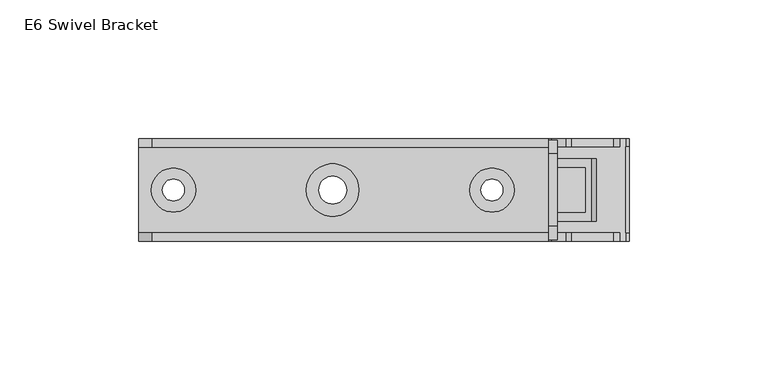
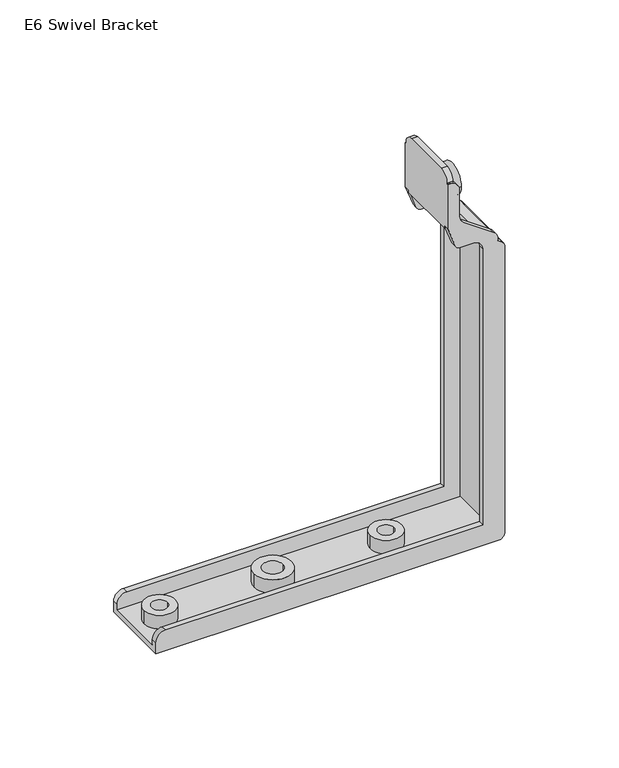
"""IFC4 building model written with IfcOpenShell, lengths in millimetres: proxy geometry, d&b E-Series E6 Swivel Bracket : E6 Swivel Bracket."""

from ifc_helpers import new_model, si_unit, point, frame, frame_2d, origin, origin_2d, place, context, project, spatial, polyline, circle_curve, trimmed, segment, composite_curve, outline, extrude, source, transform, mapped, element, save
from ifc_brep_helpers import plane_surface, cylinder_surface, revolved_surface, advanced_brep


def e6_swivel_bracket_389a8270(model_context):
    return source(origin(), model_context, "Body", "SolidModel", [
        advanced_brep(
        [(81.0, 18.0, 11.5825757), (81.0, 18.0, 12.5), (81.0, 13.0, 17.5), (81.0, -13.0, 17.5), (81.0, -18.0, 12.5), (81.0, -18.0, 11.5825757), (81.0, -15.5, 11.5825757), (81.0, -15.5, -11.2329029), (81.0, 15.5, -11.2329029), (81.0, 15.5, 11.5825757), (78.0, -18.0, 12.5), (78.0, -13.0, 17.5), (78.0, 13.0, 17.5), (78.0, 18.0, 12.5), (78.0, 18.0, 12.0), (78.0, 18.5, 12.0), (78.0, 18.5, -11.5897638), (78.0, 15.5, -11.5897638), (78.0, 15.5, -12.794604), (78.0, -15.5, -12.794604), (78.0, -15.5, -11.5897638), (78.0, -18.5, -11.5897638), (78.0, -18.5, 12.0), (78.0, -18.0, 12.0), (79.0, 18.0, 12.0), (79.0, -18.0, 12.0), (78.5885107, 15.5, -13.2066836), (78.5885107, -15.5, -13.2066836), (103.5749026, 15.5, -188.0), (103.5749026, -15.5, -188.0), (103.5749026, -18.5, -188.0), (-70.0, -18.5, -188.0), (-70.0, 18.5, -188.0), (103.5749026, 18.5, -188.0), (-61.4155031, 0.0, -188.0), (-53.4660711, 0.0, -188.0), (61.4155031, 0.0, -188.0), (53.4660711, 0.0, -188.0), (-5.0, 0.0, -188.0), (5.0, 0.0, -188.0), (107.0, 15.5, -31.1095724), (107.0, -15.5, -31.1095724), (107.0, -18.5, -31.1095724), (107.0, -18.5, -184.5749026), (107.0, -15.5, -184.5749026), (107.0, 15.5, -184.5749026), (107.0, 18.5, -184.5749026), (107.0, 18.5, -31.1095724), (105.6309729, 15.5, -28.4796957), (105.6309729, -15.5, -28.4796957), (105.6309729, 18.5, -28.4796957), (103.5, 18.5, -26.9875725), (103.5, 15.5, -26.9875725), (103.5, -15.5, -26.9875725), (103.5, -18.5, -26.9875725), (105.6309729, -18.5, -28.4796957), (95.1387965, 11.25, -21.1329948), (95.1387965, -11.25, -21.1329948), (81.2132118, -11.25, -11.3821954), (81.2132118, 11.25, -11.3821954), (104.0, -15.5, -185.0), (104.0, 15.5, -185.0), (-70.0, 15.5, -185.0), (-70.0, -15.5, -185.0), (-61.4155031, 0.0, -185.0), (-53.4660711, 0.0, -185.0), (61.4155031, 0.0, -185.0), (53.4660711, 0.0, -185.0), (-5.0, 0.0, -185.0), (5.0, 0.0, -185.0), (104.0, -15.5, -31.0), (104.0, 15.5, -31.0), (93.4180672, -11.25, -23.5904509), (93.4180672, 11.25, -23.5904509), (79.4924825, 11.25, -13.8396515), (79.4924825, -11.25, -13.8396515), (81.8573688, 15.5, -22.1877975), (84.1924983, 15.5, -23.8228727), (91.0, 15.5, -23.8228727), (96.0, 15.5, -28.8228727), (96.0, 15.5, -177.0), (-65.0, 15.5, -177.0), (-70.0, 15.5, -182.0), (103.5, 15.5, -25.928084), (101.3678822, 15.5, -21.8323237), (86.1321178, 15.5, -11.1641267), (84.0, 15.5, -7.0683665), (84.0, 15.5, 7.0), (84.0, 18.5, 7.0), (84.0, 18.5, -7.0683665), (86.1321178, 18.5, -11.1641267), (101.3678822, 18.5, -21.8323237), (103.5, 18.5, -25.928084), (-70.0, 18.5, -182.0), (-65.0, 18.5, -177.0), (96.0, 18.5, -177.0), (96.0, 18.5, -28.8228727), (91.0, 18.5, -23.8228727), (84.1924983, 18.5, -23.8228727), (81.8573688, 18.5, -22.1877975), (79.0, 18.5, 12.0), (84.0, -15.5, 7.0), (84.0, -15.5, -7.0683665), (86.1321178, -15.5, -11.1641267), (101.3678822, -15.5, -21.8323237), (103.5, -15.5, -25.928084), (-70.0, -15.5, -182.0), (-65.0, -15.5, -177.0), (96.0, -15.5, -177.0), (96.0, -15.5, -28.8228727), (91.0, -15.5, -23.8228727), (84.1924983, -15.5, -23.8228727), (81.8573688, -15.5, -22.1877975), (84.0, -18.5, 7.0), (79.0, -18.5, 12.0), (81.8573688, -18.5, -22.1877975), (84.1924983, -18.5, -23.8228727), (91.0, -18.5, -23.8228727), (96.0, -18.5, -28.8228727), (96.0, -18.5, -177.0), (-65.0, -18.5, -177.0), (-70.0, -18.5, -182.0), (103.5, -18.5, -25.928084), (101.3678822, -18.5, -21.8323237), (86.1321178, -18.5, -11.1641267), (84.0, -18.5, -7.0683665)],
        [
            (0, 1),
            (1, 2, circle_curve(frame((81.0, 13.0, 12.5), z_axis=(1.0, 0.0, 0.0), x_axis=(0.0, 0.0, -1.0)), 5.0)),
            (2, 3),
            (3, 4, circle_curve(frame((81.0, -13.0, 12.5), z_axis=(1.0, 0.0, 0.0), x_axis=(0.0, 0.0, -1.0)), 5.0)),
            (4, 5),
            (5, 6),
            (6, 7),
            (7, 8),
            (8, 9),
            (9, 0),
            (10, 11, circle_curve(frame((78.0, -13.0, 12.5), z_axis=(-1.0, 0.0, 0.0), x_axis=(0.0, 0.0, -1.0)), 5.0)),
            (11, 12),
            (12, 13, circle_curve(frame((78.0, 13.0, 12.5), z_axis=(-1.0, 0.0, 0.0), x_axis=(0.0, 0.0, -1.0)), 5.0)),
            (13, 14),
            (14, 15),
            (15, 16),
            (16, 17),
            (17, 18),
            (18, 19),
            (19, 20),
            (20, 21),
            (21, 22),
            (22, 23),
            (23, 10),
            (0, 24, circle_curve(frame((79.0, 18.0, 7.0), z_axis=(0.0, -1.0, 0.0), x_axis=(1.0, 0.0, 0.0)), 5.0)),
            (24, 14),
            (13, 1),
            (2, 12),
            (11, 3),
            (10, 4),
            (23, 25),
            (25, 5, circle_curve(frame((79.0, -18.0, 7.0), z_axis=(0.0, 1.0, 0.0), x_axis=(1.0, 0.0, 0.0)), 5.0)),
            (26, 18),
            (17, 26),
            (19, 27),
            (27, 20),
            (28, 29),
            (29, 30),
            (30, 31),
            (31, 32),
            (32, 33),
            (33, 28),
            (34, 35, circle_curve(frame((-57.4407871, 0.0, -188.0), z_axis=(0.0, 0.0, 1.0), x_axis=(1.0, 0.0, 0.0)), 3.974716)),
            (35, 34, circle_curve(frame((-57.4407871, 0.0, -188.0), z_axis=(0.0, 0.0, 1.0), x_axis=(1.0, 0.0, 0.0)), 3.974716)),
            (36, 37, circle_curve(frame((57.4407871, 0.0, -188.0), z_axis=(0.0, 0.0, 1.0), x_axis=(-1.0, 0.0, 0.0)), 3.974716)),
            (37, 36, circle_curve(frame((57.4407871, 0.0, -188.0), z_axis=(0.0, 0.0, 1.0), x_axis=(-1.0, 0.0, 0.0)), 3.974716)),
            (38, 39, circle_curve(frame((0.0, 0.0, -188.0), z_axis=(0.0, 0.0, 1.0), x_axis=(1.0, 0.0, 0.0)), 5.0)),
            (39, 38, circle_curve(frame((0.0, 0.0, -188.0), z_axis=(0.0, 0.0, 1.0), x_axis=(1.0, 0.0, 0.0)), 5.0)),
            (40, 41),
            (41, 42),
            (42, 43),
            (43, 44),
            (44, 45),
            (45, 46),
            (46, 47),
            (47, 40),
            (40, 48, circle_curve(frame((103.7895134, 15.5, -31.1095724), z_axis=(0.0, -1.0, 0.0), x_axis=(1.0, 0.0, 0.0)), 3.2104866)),
            (48, 49),
            (49, 41, circle_curve(frame((103.7895134, -15.5, -31.1095724), z_axis=(0.0, 1.0, 0.0), x_axis=(1.0, 0.0, 0.0)), 3.2104866)),
            (48, 50),
            (50, 51),
            (51, 52),
            (52, 8),
            (7, 53),
            (53, 54),
            (54, 55),
            (55, 49),
            (56, 57),
            (57, 58),
            (58, 59),
            (59, 56),
            (28, 45, circle_curve(frame((103.5749026, 15.5, -184.5749026), z_axis=(0.0, -1.0, 0.0), x_axis=(1.0, 0.0, 0.0)), 3.4250974)),
            (44, 29, circle_curve(frame((103.5749026, -15.5, -184.5749026), z_axis=(0.0, 1.0, 0.0), x_axis=(1.0, 0.0, 0.0)), 3.4250974)),
            (60, 61),
            (61, 62),
            (62, 63),
            (63, 60),
            (64, 65, circle_curve(frame((-57.4407871, 0.0, -185.0), z_axis=(0.0, 0.0, -1.0), x_axis=(1.0, 0.0, 0.0)), 3.974716)),
            (65, 64, circle_curve(frame((-57.4407871, 0.0, -185.0), z_axis=(0.0, 0.0, -1.0), x_axis=(1.0, 0.0, 0.0)), 3.974716)),
            (66, 67, circle_curve(frame((57.4407871, 0.0, -185.0), z_axis=(0.0, 0.0, -1.0), x_axis=(-1.0, 0.0, 0.0)), 3.974716)),
            (67, 66, circle_curve(frame((57.4407871, 0.0, -185.0), z_axis=(0.0, 0.0, -1.0), x_axis=(-1.0, 0.0, 0.0)), 3.974716)),
            (68, 69, circle_curve(frame((0.0, 0.0, -185.0), z_axis=(0.0, 0.0, -1.0), x_axis=(1.0, 0.0, 0.0)), 5.0)),
            (69, 68, circle_curve(frame((0.0, 0.0, -185.0), z_axis=(0.0, 0.0, -1.0), x_axis=(1.0, 0.0, 0.0)), 5.0)),
            (60, 70),
            (70, 71),
            (71, 61),
            (70, 27),
            (26, 71),
            (72, 73),
            (73, 74),
            (74, 75),
            (75, 72),
            (76, 77, circle_curve(frame((84.1924983, 15.5, -21.3378799), z_axis=(0.0, -1.0, 0.0), x_axis=(1.0, 0.0, 0.0)), 2.4849928)),
            (77, 78),
            (78, 79, circle_curve(frame((91.0, 15.5, -28.8228727), z_axis=(0.0, 1.0, 0.0), x_axis=(1.0, 0.0, 0.0)), 5.0)),
            (79, 80),
            (80, 81),
            (81, 82, circle_curve(frame((-65.0, 15.5, -182.0), z_axis=(0.0, -1.0, 0.0), x_axis=(1.0, 0.0, 0.0)), 5.0)),
            (82, 62),
            (26, 76),
            (52, 83),
            (83, 84, circle_curve(frame((98.5, 15.5, -25.928084), z_axis=(0.0, -1.0, 0.0), x_axis=(1.0, 0.0, 0.0)), 5.0)),
            (84, 85),
            (85, 86, circle_curve(frame((89.0, 15.5, -7.0683665), z_axis=(0.0, 1.0, 0.0), x_axis=(1.0, 0.0, 0.0)), 5.0)),
            (86, 87),
            (87, 9, circle_curve(frame((79.0, 15.5, 7.0), z_axis=(0.0, -1.0, 0.0), x_axis=(1.0, 0.0, 0.0)), 5.0)),
            (88, 89),
            (89, 90, circle_curve(frame((89.0, 18.5, -7.0683665), z_axis=(0.0, -1.0, 0.0), x_axis=(1.0, 0.0, 0.0)), 5.0)),
            (90, 91),
            (91, 92, circle_curve(frame((98.5, 18.5, -25.928084), z_axis=(0.0, 1.0, 0.0), x_axis=(1.0, 0.0, 0.0)), 5.0)),
            (92, 51),
            (50, 47, circle_curve(frame((103.7895134, 18.5, -31.1095724), z_axis=(0.0, 1.0, 0.0), x_axis=(1.0, 0.0, 0.0)), 3.2104866)),
            (46, 33, circle_curve(frame((103.5749026, 18.5, -184.5749026), z_axis=(0.0, 1.0, 0.0), x_axis=(1.0, 0.0, 0.0)), 3.4250974)),
            (32, 93),
            (93, 94, circle_curve(frame((-65.0, 18.5, -182.0), z_axis=(0.0, 1.0, 0.0), x_axis=(1.0, 0.0, 0.0)), 5.0)),
            (94, 95),
            (95, 96),
            (96, 97, circle_curve(frame((91.0, 18.5, -28.8228727), z_axis=(0.0, -1.0, 0.0), x_axis=(1.0, 0.0, 0.0)), 5.0)),
            (97, 98),
            (98, 99, circle_curve(frame((84.1924983, 18.5, -21.3378799), z_axis=(0.0, 1.0, 0.0), x_axis=(1.0, 0.0, 0.0)), 2.4849928)),
            (99, 16),
            (15, 100),
            (100, 88, circle_curve(frame((79.0, 18.5, 7.0), z_axis=(0.0, 1.0, 0.0), x_axis=(1.0, 0.0, 0.0)), 5.0)),
            (100, 24),
            (87, 88),
            (99, 76),
            (98, 77),
            (97, 78),
            (96, 79),
            (95, 80),
            (94, 81),
            (93, 82),
            (92, 83),
            (91, 84),
            (90, 85),
            (89, 86),
            (101, 102),
            (102, 103, circle_curve(frame((89.0, -15.5, -7.0683665), z_axis=(0.0, -1.0, 0.0), x_axis=(1.0, 0.0, 0.0)), 5.0)),
            (103, 104),
            (104, 105, circle_curve(frame((98.5, -15.5, -25.928084), z_axis=(0.0, 1.0, 0.0), x_axis=(1.0, 0.0, 0.0)), 5.0)),
            (105, 53),
            (6, 101, circle_curve(frame((79.0, -15.5, 7.0), z_axis=(0.0, 1.0, 0.0), x_axis=(1.0, 0.0, 0.0)), 5.0)),
            (106, 107, circle_curve(frame((-65.0, -15.5, -182.0), z_axis=(0.0, 1.0, 0.0), x_axis=(1.0, 0.0, 0.0)), 5.0)),
            (107, 108),
            (108, 109),
            (109, 110, circle_curve(frame((91.0, -15.5, -28.8228727), z_axis=(0.0, -1.0, 0.0), x_axis=(1.0, 0.0, 0.0)), 5.0)),
            (110, 111),
            (111, 112, circle_curve(frame((84.1924983, -15.5, -21.3378799), z_axis=(0.0, 1.0, 0.0), x_axis=(1.0, 0.0, 0.0)), 2.4849928)),
            (112, 27),
            (63, 106),
            (113, 114, circle_curve(frame((79.0, -18.5, 7.0), z_axis=(0.0, -1.0, 0.0), x_axis=(1.0, 0.0, 0.0)), 5.0)),
            (114, 22),
            (21, 115),
            (115, 116, circle_curve(frame((84.1924983, -18.5, -21.3378799), z_axis=(0.0, -1.0, 0.0), x_axis=(1.0, 0.0, 0.0)), 2.4849928)),
            (116, 117),
            (117, 118, circle_curve(frame((91.0, -18.5, -28.8228727), z_axis=(0.0, 1.0, 0.0), x_axis=(1.0, 0.0, 0.0)), 5.0)),
            (118, 119),
            (119, 120),
            (120, 121, circle_curve(frame((-65.0, -18.5, -182.0), z_axis=(0.0, -1.0, 0.0), x_axis=(1.0, 0.0, 0.0)), 5.0)),
            (121, 31),
            (30, 43, circle_curve(frame((103.5749026, -18.5, -184.5749026), z_axis=(0.0, -1.0, 0.0), x_axis=(1.0, 0.0, 0.0)), 3.4250974)),
            (42, 55, circle_curve(frame((103.7895134, -18.5, -31.1095724), z_axis=(0.0, -1.0, 0.0), x_axis=(1.0, 0.0, 0.0)), 3.2104866)),
            (54, 122),
            (122, 123, circle_curve(frame((98.5, -18.5, -25.928084), z_axis=(0.0, -1.0, 0.0), x_axis=(1.0, 0.0, 0.0)), 5.0)),
            (123, 124),
            (124, 125, circle_curve(frame((89.0, -18.5, -7.0683665), z_axis=(0.0, 1.0, 0.0), x_axis=(1.0, 0.0, 0.0)), 5.0)),
            (125, 113),
            (113, 101),
            (25, 114),
            (112, 115),
            (111, 116),
            (110, 117),
            (109, 118),
            (108, 119),
            (107, 120),
            (106, 121),
            (105, 122),
            (104, 123),
            (103, 124),
            (102, 125),
            (56, 73),
            (72, 57),
            (75, 58),
            (74, 59),
            (64, 34),
            (35, 65),
            (66, 36),
            (37, 67),
            (68, 38),
            (39, 69),
        ],
        [
            plane_surface(frame((81.0, 15.5, 12.4997013), z_axis=(1.0, 0.0, 0.0), x_axis=(0.0, 1.0, 0.0))),
            plane_surface(frame((78.0, 15.5, 12.4997013), z_axis=(-1.0, 0.0, 0.0), x_axis=(0.0, -1.0, 0.0))),
            plane_surface(frame((81.0, 18.0, 11.5825757), z_axis=(0.0, 1.0, 0.0), x_axis=(-1.0, 0.0, 0.0))),
            plane_surface(frame((81.0, 13.0, 17.5), z_axis=(0.0, 0.0, 1.0), x_axis=(-1.0, 0.0, 0.0))),
            cylinder_surface(frame((78.0, -13.0, 12.5), z_axis=(1.0, 0.0, 0.0), x_axis=(0.0, 0.0, -1.0)), 5.0),
            plane_surface(frame((81.0, -18.0, 12.5), z_axis=(0.0, -1.0, 0.0), x_axis=(-1.0, 0.0, 0.0))),
            cylinder_surface(frame((78.0, 13.0, 12.5), z_axis=(1.0, 0.0, 0.0), x_axis=(0.0, 0.0, -1.0)), 5.0),
            plane_surface(frame((107.0, 15.5, -184.5749026), z_axis=(0.0, 1.0, 0.0), x_axis=(0.0, 0.0, -1.0))),
            plane_surface(frame((107.0, -15.5, -184.5749026), z_axis=(0.0, -1.0, 0.0), x_axis=(0.0, 0.0, 1.0))),
            plane_surface(frame((103.5749026, 15.5, -188.0), z_axis=(0.0, 0.0, -1.0), x_axis=(0.0, -1.0, 0.0))),
            plane_surface(frame((107.0, 15.5, -31.1095724), z_axis=(1.0, 0.0, 0.0), x_axis=(0.0, -1.0, 0.0))),
            cylinder_surface(frame((103.7895134, -15.5, -31.1095724), z_axis=(0.0, 1.0, 0.0), x_axis=(1.0, 0.0, 0.0)), 3.2104866),
            plane_surface(frame((81.0, 15.5, -11.2329029), z_axis=(0.5735764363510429, 0.0, 0.819152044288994), x_axis=(0.0, -1.0, 0.0))),
            cylinder_surface(frame((103.5749026, -15.5, -184.5749026), z_axis=(0.0, 1.0, 0.0), x_axis=(1.0, 0.0, 0.0)), 3.4250974),
            plane_surface(frame((99.0, 15.5, -185.0), z_axis=(0.0, 0.0, 1.0), x_axis=(0.0, -1.0, 0.0))),
            plane_surface(frame((104.0, 15.5, -185.0), z_axis=(-1.0, 0.0, 0.0), x_axis=(0.0, -1.0, 0.0))),
            plane_surface(frame((104.0, 15.5, -31.0), z_axis=(-0.5735764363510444, 0.0, -0.8191520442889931), x_axis=(0.0, -1.0, 0.0))),
            plane_surface(frame((84.0, 15.5, 7.0), z_axis=(0.0, -1.0, 0.0), x_axis=(0.0, 0.0, 1.0))),
            plane_surface(frame((84.0, 18.5, 7.0), z_axis=(0.0, 1.0, 0.0), x_axis=(0.0, 0.0, -1.0))),
            cylinder_surface(frame((79.0, 18.5, 7.0), z_axis=(0.0, -1.0, 0.0), x_axis=(1.0, 0.0, 0.0)), 5.0),
            plane_surface(frame((79.0, 15.5, 12.0), z_axis=(0.0, 0.0, 1.0), x_axis=(0.0, 1.0, 0.0))),
            plane_surface(frame((78.0, 15.5, -11.5897638), z_axis=(-0.9396926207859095, 0.0, -0.34202014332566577), x_axis=(0.0, 1.0, 0.0))),
            cylinder_surface(frame((84.1924983, 18.5, -21.3378799), z_axis=(0.0, -1.0, 0.0), x_axis=(1.0, 0.0, 0.0)), 2.4849928),
            plane_surface(frame((84.1924983, 15.5, -23.8228727), z_axis=(0.0, 0.0, -1.0), x_axis=(0.0, 1.0, 0.0))),
            revolved_surface(polyline([(96.0, 18.5, -28.8228727), (96.0, 15.5, -28.8228727)]), (91.0, 18.5, -28.8228727), (0.0, 1.0, 0.0)),
            plane_surface(frame((96.0, 15.5, -28.8228727), z_axis=(-1.0, 0.0, 0.0), x_axis=(0.0, 1.0, 0.0))),
            plane_surface(frame((96.0, 15.5, -177.0), z_axis=(0.0, 0.0, 1.0), x_axis=(0.0, 1.0, 0.0))),
            cylinder_surface(frame((-65.0, 18.5, -182.0), z_axis=(0.0, -1.0, 0.0), x_axis=(1.0, 0.0, 0.0)), 5.0),
            cylinder_surface(frame((103.7895134, 18.5, -31.1095724), z_axis=(0.0, -1.0, 0.0), x_axis=(1.0, 0.0, 0.0)), 3.2104866),
            plane_surface(frame((103.5, 15.5, -26.9875725), z_axis=(1.0, 0.0, 0.0), x_axis=(0.0, 1.0, 0.0))),
            cylinder_surface(frame((98.5, 18.5, -25.928084), z_axis=(0.0, -1.0, 0.0), x_axis=(1.0, 0.0, 0.0)), 5.0),
            plane_surface(frame((101.3678822, 15.5, -21.8323237), z_axis=(0.5735764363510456, 0.0, 0.8191520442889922), x_axis=(0.0, 1.0, 0.0))),
            revolved_surface(polyline([(94.0, 18.5, -7.0683665), (94.0, 15.5, -7.0683665)]), (89.0, 18.5, -7.0683665), (0.0, 1.0, 0.0)),
            plane_surface(frame((84.0, 15.5, -7.0683665), z_axis=(1.0, 0.0, 0.0), x_axis=(0.0, 1.0, 0.0))),
            plane_surface(frame((84.0, -15.5, -7.0683665), z_axis=(0.0, 1.0, 0.0), x_axis=(0.0, 0.0, -1.0))),
            plane_surface(frame((84.0, -18.5, -7.0683665), z_axis=(0.0, -1.0, 0.0), x_axis=(0.0, 0.0, 1.0))),
            cylinder_surface(frame((79.0, -18.5, 7.0), z_axis=(0.0, 1.0, 0.0), x_axis=(1.0, 0.0, 0.0)), 5.0),
            plane_surface(frame((78.0, -15.5, 12.0), z_axis=(0.0, 0.0, 1.0), x_axis=(0.0, -1.0, 0.0))),
            plane_surface(frame((81.8573688, -15.5, -22.1877975), z_axis=(-0.9396926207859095, 0.0, -0.34202014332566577), x_axis=(0.0, -1.0, 0.0))),
            cylinder_surface(frame((84.1924983, -18.5, -21.3378799), z_axis=(0.0, 1.0, 0.0), x_axis=(1.0, 0.0, 0.0)), 2.4849928),
            plane_surface(frame((91.0, -15.5, -23.8228727), z_axis=(0.0, 0.0, -1.0), x_axis=(0.0, -1.0, 0.0))),
            revolved_surface(polyline([(96.0, -18.5, -28.8228727), (96.0, -15.5, -28.8228727)]), (91.0, -18.5, -28.8228727), (0.0, -1.0, 0.0)),
            plane_surface(frame((96.0, -15.5, -177.0), z_axis=(-1.0, 0.0, 0.0), x_axis=(0.0, -1.0, 0.0))),
            plane_surface(frame((-65.0, -15.5, -177.0), z_axis=(0.0, 0.0, 1.0), x_axis=(0.0, -1.0, 0.0))),
            cylinder_surface(frame((-65.0, -18.5, -182.0), z_axis=(0.0, 1.0, 0.0), x_axis=(1.0, 0.0, 0.0)), 5.0),
            cylinder_surface(frame((103.7895134, -18.5, -31.1095724), z_axis=(0.0, 1.0, 0.0), x_axis=(1.0, 0.0, 0.0)), 3.2104866),
            plane_surface(frame((103.5, -15.5, -25.928084), z_axis=(1.0, 0.0, 0.0), x_axis=(0.0, -1.0, 0.0))),
            cylinder_surface(frame((98.5, -18.5, -25.928084), z_axis=(0.0, 1.0, 0.0), x_axis=(1.0, 0.0, 0.0)), 5.0),
            plane_surface(frame((86.1321178, -15.5, -11.1641267), z_axis=(0.5735764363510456, 0.0, 0.8191520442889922), x_axis=(0.0, -1.0, 0.0))),
            revolved_surface(polyline([(94.0, -18.5, -7.0683665), (94.0, -15.5, -7.0683665)]), (89.0, -18.5, -7.0683665), (0.0, -1.0, 0.0)),
            plane_surface(frame((84.0, -15.5, 7.0), z_axis=(1.0, 0.0, 0.0), x_axis=(0.0, -1.0, 0.0))),
            cylinder_surface(frame((103.5749026, 18.5, -184.5749026), z_axis=(0.0, -1.0, 0.0), x_axis=(1.0, 0.0, 0.0)), 3.4250974),
            cylinder_surface(frame((103.5749026, -18.5, -184.5749026), z_axis=(0.0, 1.0, 0.0), x_axis=(1.0, 0.0, 0.0)), 3.4250974),
            plane_surface(frame((-70.0, 15.5, -182.0), z_axis=(-1.0, 0.0, 0.0), x_axis=(0.0, 1.0, 0.0))),
            plane_surface(frame((91.4532615, 11.25, -26.3964843), z_axis=(-0.819152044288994, 0.0, 0.573576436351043), x_axis=(0.573576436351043, 0.0, 0.819152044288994))),
            plane_surface(frame((91.4532615, -11.25, -26.3964843), z_axis=(0.0, 1.0, 0.0), x_axis=(0.573576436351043, 0.0, 0.819152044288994))),
            plane_surface(frame((77.5276767, -11.25, -16.6456849), z_axis=(0.8191520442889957, 0.0, -0.5735764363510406), x_axis=(0.5735764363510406, 0.0, 0.8191520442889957))),
            plane_surface(frame((77.5276767, 11.25, -16.6456849), z_axis=(0.0, -1.0, 0.0), x_axis=(0.573576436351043, 0.0, 0.819152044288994))),
            revolved_surface(polyline([(-53.4660711, 0.0, -185.0), (-53.4660711, 0.0, -188.0)]), (-57.4407871, 0.0, -188.0), (0.0, 0.0, 1.0)),
            revolved_surface(polyline([(53.4660711, 0.0, -185.0), (53.4660711, 0.0, -188.0)]), (57.4407871, 0.0, -188.0), (0.0, 0.0, 1.0)),
            revolved_surface(polyline([(5.0, 0.0, -185.0), (5.0, 0.0, -188.0)]), (0.0, 0.0, -188.0), (0.0, 0.0, 1.0)),
        ],
        [
            (0, [[1, 2, 3, 4, 5, 6, 7, 8, 9, 10]]),
            (1, [[11, 12, 13, 14, 15, 16, 17, 18, 19, 20, 21, 22, 23, 24]]),
            (2, [[-1, 25, 26, -14, 27]]),
            (3, [[-3, 28, -12, 29]]),
            (4, [[-4, -29, -11, 30]]),
            (5, [[-5, -30, -24, 31, 32]]),
            (6, [[-2, -27, -13, -28]]),
            (7, [[33, -18, 34]]),
            (8, [[-20, 35, 36]]),
            (9, [[37, 38, 39, 40, 41, 42], [43, 44], [45, 46], [47, 48]]),
            (10, [[49, 50, 51, 52, 53, 54, 55, 56]]),
            (11, [[-49, 57, 58, 59]]),
            (12, [[-58, 60, 61, 62, 63, -8, 64, 65, 66, 67], [68, 69, 70, 71]]),
            (13, [[-37, 72, -53, 73]]),
            (14, [[74, 75, 76, 77], [78, 79], [80, 81], [82, 83]]),
            (15, [[-74, 84, 85, 86]]),
            (16, [[-85, 87, -35, -19, -33, 88], [89, 90, 91, 92]]),
            (17, [[93, 94, 95, 96, 97, 98, 99, -75, -86, -88, 100]]),
            (17, [[101, 102, 103, 104, 105, 106, -9, -63]]),
            (18, [[107, 108, 109, 110, 111, -61, 112, -55, 113, -41, 114, 115, 116, 117, 118, 119, 120, 121, -16, 122, 123]]),
            (19, [[-123, 124, -25, -10, -106, 125]]),
            (20, [[-122, -15, -26, -124]]),
            (21, [[-121, 126, -100, -34, -17]]),
            (22, [[-93, -126, -120, 127]]),
            (23, [[-94, -127, -119, 128]]),
            (24, [[-95, -128, -118, 129]]),
            (25, [[-96, -129, -117, 130]]),
            (26, [[-97, -130, -116, 131]]),
            (27, [[-98, -131, -115, 132]]),
            (28, [[-112, -60, -57, -56]]),
            (29, [[-101, -62, -111, 133]]),
            (30, [[-102, -133, -110, 134]]),
            (31, [[-103, -134, -109, 135]]),
            (32, [[-104, -135, -108, 136]]),
            (33, [[-105, -136, -107, -125]]),
            (34, [[137, 138, 139, 140, 141, -64, -7, 142]]),
            (34, [[143, 144, 145, 146, 147, 148, 149, -87, -84, -77, 150]]),
            (35, [[151, 152, -22, 153, 154, 155, 156, 157, 158, 159, 160, -39, 161, -51, 162, -66, 163, 164, 165, 166, 167]]),
            (36, [[-151, 168, -142, -6, -32, 169]]),
            (37, [[-152, -169, -31, -23]]),
            (38, [[-153, -21, -36, -149, 170]]),
            (39, [[-148, 171, -154, -170]]),
            (40, [[-147, 172, -155, -171]]),
            (41, [[-146, 173, -156, -172]]),
            (42, [[-145, 174, -157, -173]]),
            (43, [[-144, 175, -158, -174]]),
            (44, [[-143, 176, -159, -175]]),
            (45, [[-162, -50, -59, -67]]),
            (46, [[-141, 177, -163, -65]]),
            (47, [[-140, 178, -164, -177]]),
            (48, [[-139, 179, -165, -178]]),
            (49, [[-138, 180, -166, -179]]),
            (50, [[-137, -168, -167, -180]]),
            (51, [[-113, -54, -72, -42]]),
            (52, [[-161, -38, -73, -52]]),
            (53, [[-114, -40, -160, -176, -150, -76, -99, -132]]),
            (54, [[181, -89, 182, -68]]),
            (55, [[-182, -92, 183, -69]]),
            (56, [[-183, -91, 184, -70]]),
            (57, [[-181, -71, -184, -90]]),
            (58, [[-78, 185, -44, 186]]),
            (58, [[-79, -186, -43, -185]]),
            (59, [[-80, 187, -46, 188]]),
            (59, [[-81, -188, -45, -187]]),
            (60, [[-82, 189, -48, 190]]),
            (60, [[-83, -190, -47, -189]]),
        ],
    ),
        extrude(outline(composite_curve([segment(trimmed(circle_curve(origin_2d(), 9.4817959), [point((-9.4817959, 0.0))], [point((9.4817959, 0.0))], False, "CARTESIAN"), True, "CONTINUOUS"), segment(trimmed(circle_curve(origin_2d(), 9.4817959), [point((9.4817959, 0.0))], [point((-9.4817959, 0.0))], False, "CARTESIAN"), True, "CONTINUOUS")], self_intersect=False), holes=[composite_curve([segment(trimmed(circle_curve(origin_2d(), 5.0), [point((-5.0, 0.0))], [point((5.0, 0.0))], True, "CARTESIAN"), True, "CONTINUOUS"), segment(trimmed(circle_curve(origin_2d(), 5.0), [point((5.0, 0.0))], [point((-5.0, 0.0))], True, "CARTESIAN"), True, "CONTINUOUS")], self_intersect=False)]), frame((0.0, 0.0, -185.0), z_axis=(0.0, 0.0, 1.0), x_axis=(1.0, 0.0, 0.0)), (0.0, 0.0, 1.0), 7.6),
        extrude(outline(composite_curve([segment(trimmed(circle_curve(frame_2d((57.4407871, 0.0)), 7.9633792), [point((49.4774079, 0.0))], [point((65.4041663, 0.0))], False, "CARTESIAN"), True, "CONTINUOUS"), segment(trimmed(circle_curve(frame_2d((57.4407871, 0.0)), 7.9633792), [point((65.4041663, 0.0))], [point((49.4774079, 0.0))], False, "CARTESIAN"), True, "CONTINUOUS")], self_intersect=False), holes=[composite_curve([segment(trimmed(circle_curve(frame_2d((57.4407871, 0.0)), 3.974716), [point((61.4155031, 0.0))], [point((53.4660711, 0.0))], True, "CARTESIAN"), True, "CONTINUOUS"), segment(trimmed(circle_curve(frame_2d((57.4407871, 0.0)), 3.974716), [point((53.4660711, 0.0))], [point((61.4155031, 0.0))], True, "CARTESIAN"), True, "CONTINUOUS")], self_intersect=False)]), frame((0.0, 0.0, -185.0), z_axis=(0.0, 0.0, 1.0), x_axis=(1.0, 0.0, 0.0)), (0.0, 0.0, 1.0), 7.6),
        extrude(outline(composite_curve([segment(trimmed(circle_curve(frame_2d((-57.4407871, 0.0)), 7.9633792), [point((-49.4774079, 0.0))], [point((-65.4041663, 0.0))], False, "CARTESIAN"), True, "CONTINUOUS"), segment(trimmed(circle_curve(frame_2d((-57.4407871, 0.0)), 7.9633792), [point((-65.4041663, 0.0))], [point((-49.4774079, 0.0))], False, "CARTESIAN"), True, "CONTINUOUS")], self_intersect=False), holes=[composite_curve([segment(trimmed(circle_curve(frame_2d((-57.4407871, 0.0)), 3.974716), [point((-61.4155031, 0.0))], [point((-53.4660711, 0.0))], True, "CARTESIAN"), True, "CONTINUOUS"), segment(trimmed(circle_curve(frame_2d((-57.4407871, 0.0)), 3.974716), [point((-53.4660711, 0.0))], [point((-61.4155031, 0.0))], True, "CARTESIAN"), True, "CONTINUOUS")], self_intersect=False)]), frame((0.0, 0.0, -185.0), z_axis=(0.0, 0.0, 1.0), x_axis=(1.0, 0.0, 0.0)), (0.0, 0.0, 1.0), 7.6),
        extrude(outline(composite_curve([segment(trimmed(circle_curve(origin_2d(), 8.0341192), [point((8.0341192, 0.0))], [point((-8.0341192, 0.0))], False, "CARTESIAN"), True, "CONTINUOUS"), segment(trimmed(circle_curve(origin_2d(), 8.0341192), [point((-8.0341192, 0.0))], [point((8.0341192, 0.0))], False, "CARTESIAN"), True, "CONTINUOUS")], self_intersect=False)), frame((81.0, 0.0, 0.0), z_axis=(1.0, 0.0, 0.0), x_axis=(0.0, 1.0, 0.0)), (0.0, 0.0, 1.0), 10.0),
    ])


if __name__ == "__main__":
    model = new_model("IFC4")
    model_context = context("Model", 3, world=origin())
    ifc_project = project(units=[si_unit("LENGTHUNIT", "METRE", prefix="MILLI")], contexts=[model_context])
    site = spatial("IfcSite", under=ifc_project)
    building = spatial("IfcBuilding", under=site)
    placement = place(None, origin())
    e6_swivel_bracket_shape = e6_swivel_bracket_389a8270(model_context)
    element("IfcBuildingElementProxy", 1, Name="d&b E-Series E6 Swivel Bracket : E6 Swivel Bracket", ObjectType="d&b E-Series E6 Swivel Bracket : E6 Swivel Bracket", at=placement, inside=building, context=model_context, shape_type="MappedRepresentation", body=[
        mapped(e6_swivel_bracket_shape, transform((0.0, 0.0, 0.0), x_axis=(1.0, 0.0, 0.0), y_axis=(0.0, 1.0, 0.0), z_axis=(0.0, 0.0, 1.0))),
    ])
    save(model, "model.ifc")
